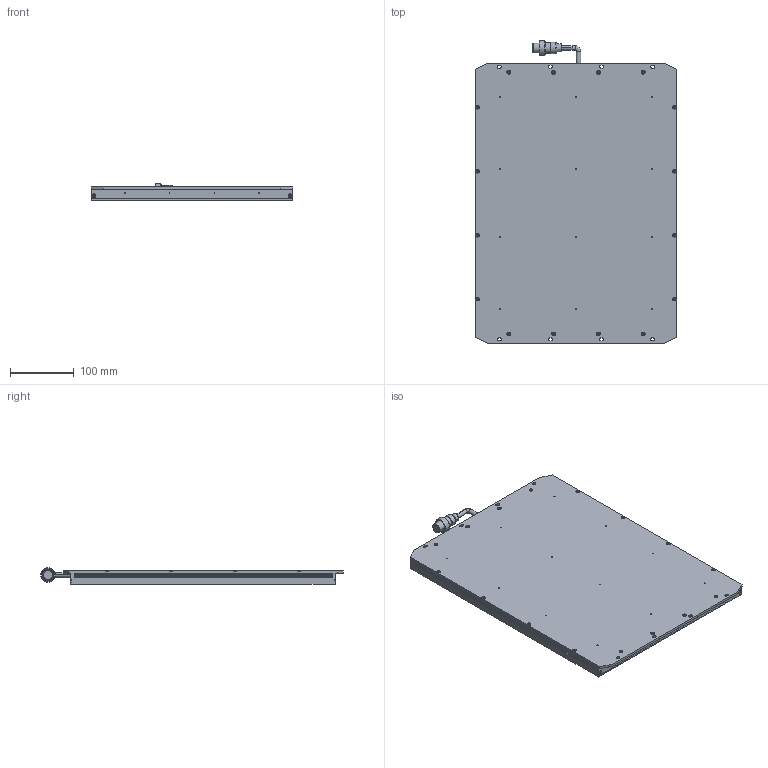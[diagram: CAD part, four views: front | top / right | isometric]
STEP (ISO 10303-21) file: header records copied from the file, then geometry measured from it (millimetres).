
FILE_DESCRIPTION((''),'2;1');
FILE_NAME('PRT0001','2022-11-04T18:22:36',('lizhoupeng'),(''),'CREO PARAMETRIC BY PTC INC, 2020044','CREO PARAMETRIC BY PTC INC, 2020044','');
FILE_SCHEMA(('CONFIG_CONTROL_DESIGN'));
Products named in the file (1): PRT0001
Bounding box: 315 x 472.75 x 25.75 mm (x, y, z)
Volume: 2744045.7 mm3; surface area: 351315.9 mm2
Topology: 2 solids, 85 shells, 2503 faces, 5952 edges, 3620 vertices
Faces by surface type: plane 1374, cylinder 588, cone 240, extrusion 219, torus 78, bspline 4
Entity records: 72874 total; most frequent: CARTESIAN_POINT 16017, ORIENTED_EDGE 11760, DIRECTION 11295, EDGE_CURVE 5880, VECTOR 3983, LINE 3764, AXIS2_PLACEMENT_3D 3656, VERTEX_POINT 3620
